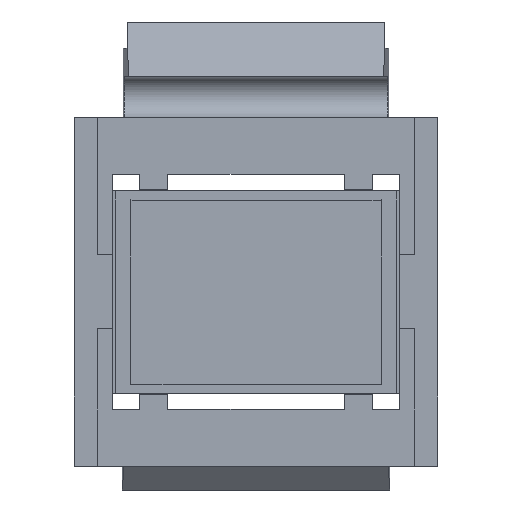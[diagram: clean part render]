
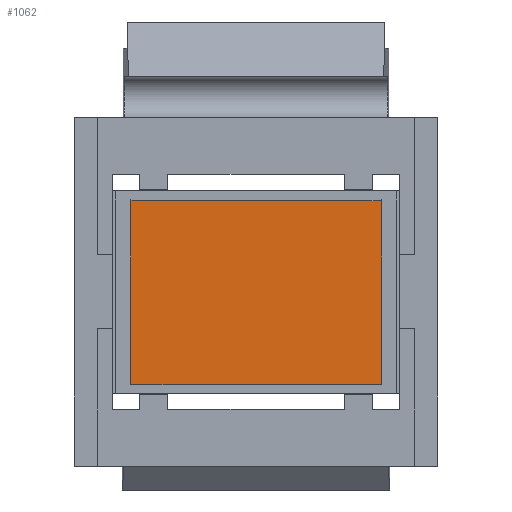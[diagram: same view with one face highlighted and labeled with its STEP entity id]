
A CAD part, left-side view. The second image highlights one B-rep face of the part: STEP entity #1062.
In plain terms, the highlighted planar face has unit normal (-1, 0, 0).
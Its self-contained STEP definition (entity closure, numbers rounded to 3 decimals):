
#357 = VERTEX_POINT('',#358);
#358 = CARTESIAN_POINT('',(8.,-5.771,8.885));
#364 = EDGE_CURVE('',#357,#365,#367,.T.);
#365 = VERTEX_POINT('',#366);
#366 = CARTESIAN_POINT('',(8.,5.746,8.885));
#367 = LINE('',#368,#369);
#368 = CARTESIAN_POINT('',(8.,-5.771,8.885));
#369 = VECTOR('',#370,1.);
#370 = DIRECTION('',(0.,1.,0.));
#390 = EDGE_CURVE('',#365,#391,#393,.T.);
#391 = VERTEX_POINT('',#392);
#392 = CARTESIAN_POINT('',(8.,5.746,0.397));
#393 = LINE('',#394,#395);
#394 = CARTESIAN_POINT('',(8.,5.746,8.885));
#395 = VECTOR('',#396,1.);
#396 = DIRECTION('',(0.,0.,-1.));
#414 = EDGE_CURVE('',#391,#415,#417,.T.);
#415 = VERTEX_POINT('',#416);
#416 = CARTESIAN_POINT('',(8.,-5.771,0.397));
#417 = LINE('',#418,#419);
#418 = CARTESIAN_POINT('',(8.,5.746,0.397));
#419 = VECTOR('',#420,1.);
#420 = DIRECTION('',(0.,-1.,0.));
#438 = EDGE_CURVE('',#415,#357,#439,.T.);
#439 = LINE('',#440,#441);
#440 = CARTESIAN_POINT('',(8.,-5.771,0.397));
#441 = VECTOR('',#442,1.);
#442 = DIRECTION('',(0.,0.,1.));
#1062 = ADVANCED_FACE('',(#1063),#1069,.F.);
#1063 = FACE_BOUND('',#1064,.T.);
#1064 = EDGE_LOOP('',(#1065,#1066,#1067,#1068));
#1065 = ORIENTED_EDGE('',*,*,#390,.T.);
#1066 = ORIENTED_EDGE('',*,*,#414,.T.);
#1067 = ORIENTED_EDGE('',*,*,#438,.T.);
#1068 = ORIENTED_EDGE('',*,*,#364,.T.);
#1069 = PLANE('',#1070);
#1070 = AXIS2_PLACEMENT_3D('',#1071,#1072,#1073);
#1071 = CARTESIAN_POINT('',(8.,-0.012,4.641));
#1072 = DIRECTION('',(1.,0.,0.));
#1073 = DIRECTION('',(0.,0.,1.));
